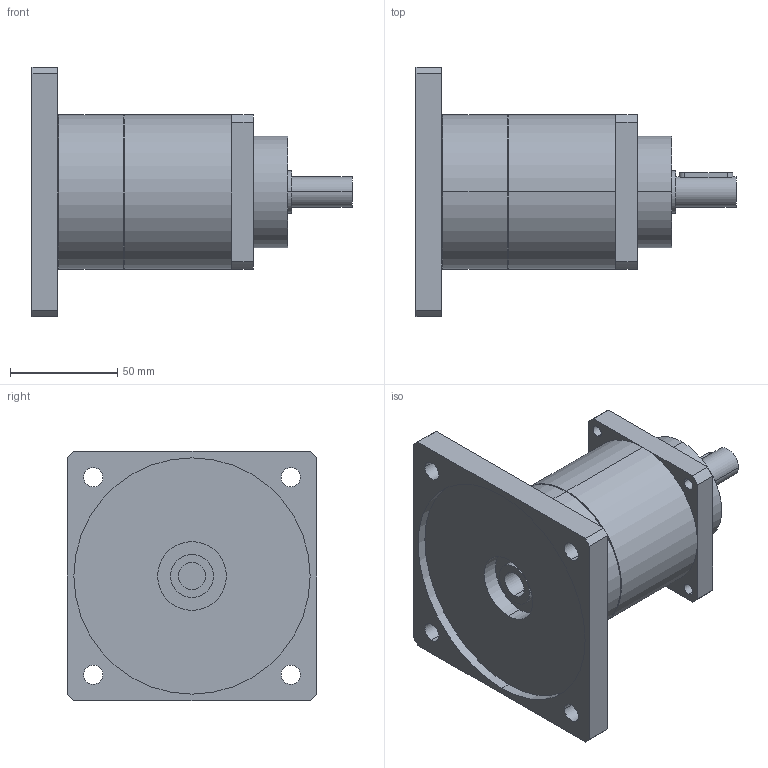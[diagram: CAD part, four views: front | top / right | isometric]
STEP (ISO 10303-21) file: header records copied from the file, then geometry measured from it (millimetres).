
FILE_DESCRIPTION(('CoCreate Modeling STEP Export'),'2;1');
FILE_NAME('GPT75_ig-9-12-16-20-25-28-35-40-50-70-100_14_B5T_12.7_P09.stp','2014-08-27T13:35:11',(''),(''),'CoCreate Modeling STEP processor for AP214 (Solid Model)','CoCreate Modeling 16.00C 25-Feb-2009 (C) Parametric Technology GmbH','');
FILE_SCHEMA(('AUTOMOTIVE_DESIGN { 1 0 10303 214 1 1 1 1 }'));
Length unit declared in the file: millimetre
Products named in the file (2): GPT75_ig-9-12-16-20-25-28-35-40-50-70-100_14_B5T_12.7_P09
Assembly tree (1 placements, depth 2):
  GPT75_ig-9-12-16-20-25-28-35-40-50-70-100_14_B5T_12.7_P09
    GPT75_ig-9-12-16-20-25-28-35-40-50-70-100_14_B5T_12.7_P09
Bounding box: 149 x 116 x 116 mm (x, y, z)
Volume: 525796.7 mm3; surface area: 65424.4 mm2
Topology: 1 solids, 1 shells, 77 faces, 194 edges, 129 vertices
Faces by surface type: cylinder 46, plane 27, cone 4
Entity records: 2484 total; most frequent: CARTESIAN_POINT 719, ORIENTED_EDGE 388, DIRECTION 320, EDGE_CURVE 194, VERTEX_POINT 129, AXIS2_PLACEMENT_3D 118, EDGE_LOOP 103, VECTOR 84
